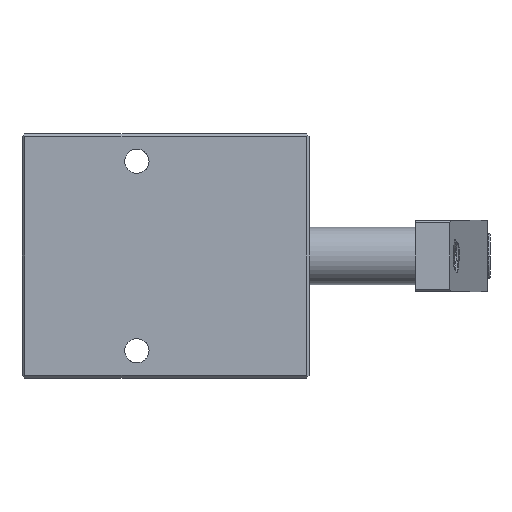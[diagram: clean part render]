
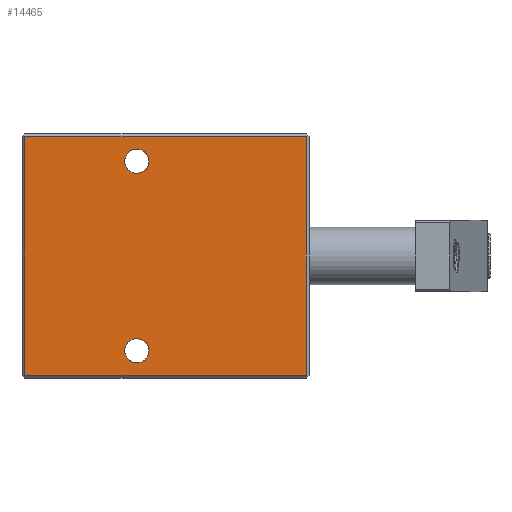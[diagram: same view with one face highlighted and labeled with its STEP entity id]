
A CAD part, front view. The second image highlights one B-rep face of the part: STEP entity #14465.
In plain terms, the highlighted planar face has unit normal (0, -1, 0).
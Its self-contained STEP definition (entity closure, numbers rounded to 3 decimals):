
#455=DIRECTION('',(0.,0.,-1.));
#456=VECTOR('',#455,83.);
#457=CARTESIAN_POINT('',(99.,-30.,41.5));
#458=LINE('',#457,#456);
#459=DIRECTION('',(-1.,0.,0.));
#460=VECTOR('',#459,98.);
#461=CARTESIAN_POINT('',(99.,-30.,-41.5));
#462=LINE('',#461,#460);
#463=DIRECTION('',(0.,0.,1.));
#464=VECTOR('',#463,83.);
#465=CARTESIAN_POINT('',(1.,-30.,-41.5));
#466=LINE('',#465,#464);
#467=DIRECTION('',(-1.,0.,0.));
#468=VECTOR('',#467,98.);
#469=CARTESIAN_POINT('',(99.,-30.,41.5));
#470=LINE('',#469,#468);
#471=CARTESIAN_POINT('',(40.,-30.,-33.));
#472=DIRECTION('',(0.,1.,0.));
#473=DIRECTION('',(0.,0.,1.));
#474=AXIS2_PLACEMENT_3D('',#471,#472,#473);
#476=CARTESIAN_POINT('',(40.,-30.,-33.));
#477=DIRECTION('',(0.,1.,0.));
#478=DIRECTION('',(0.,0.,-1.));
#479=AXIS2_PLACEMENT_3D('',#476,#477,#478);
#481=CARTESIAN_POINT('',(40.,-30.,33.));
#482=DIRECTION('',(0.,1.,0.));
#483=DIRECTION('',(0.,0.,1.));
#484=AXIS2_PLACEMENT_3D('',#481,#482,#483);
#486=CARTESIAN_POINT('',(40.,-30.,33.));
#487=DIRECTION('',(0.,1.,0.));
#488=DIRECTION('',(0.,0.,-1.));
#489=AXIS2_PLACEMENT_3D('',#486,#487,#488);
#13198=CARTESIAN_POINT('',(99.,-30.,41.5));
#13199=CARTESIAN_POINT('',(1.,-30.,41.5));
#13200=VERTEX_POINT('',#13198);
#13201=VERTEX_POINT('',#13199);
#13206=CARTESIAN_POINT('',(99.,-30.,-41.5));
#13207=CARTESIAN_POINT('',(1.,-30.,-41.5));
#13208=VERTEX_POINT('',#13206);
#13209=VERTEX_POINT('',#13207);
#13342=CARTESIAN_POINT('',(40.,-30.,-28.75));
#13343=CARTESIAN_POINT('',(40.,-30.,-37.25));
#13344=VERTEX_POINT('',#13342);
#13345=VERTEX_POINT('',#13343);
#13346=CARTESIAN_POINT('',(40.,-30.,37.25));
#13347=CARTESIAN_POINT('',(40.,-30.,28.75));
#13348=VERTEX_POINT('',#13346);
#13349=VERTEX_POINT('',#13347);
#14440=CARTESIAN_POINT('',(0.,-30.,42.5));
#14441=DIRECTION('',(0.,-1.,0.));
#14442=DIRECTION('',(0.,0.,-1.));
#14443=AXIS2_PLACEMENT_3D('',#14440,#14441,#14442);
#14444=PLANE('',#14443);
#14446=ORIENTED_EDGE('',*,*,#14445,.T.);
#14447=ORIENTED_EDGE('',*,*,#14414,.T.);
#14448=ORIENTED_EDGE('',*,*,#14428,.T.);
#14450=ORIENTED_EDGE('',*,*,#14449,.F.);
#14451=EDGE_LOOP('',(#14446,#14447,#14448,#14450));
#14452=FACE_OUTER_BOUND('',#14451,.F.);
#14454=ORIENTED_EDGE('',*,*,#14453,.F.);
#14456=ORIENTED_EDGE('',*,*,#14455,.F.);
#14457=EDGE_LOOP('',(#14454,#14456));
#14458=FACE_BOUND('',#14457,.F.);
#14460=ORIENTED_EDGE('',*,*,#14459,.F.);
#14462=ORIENTED_EDGE('',*,*,#14461,.F.);
#14463=EDGE_LOOP('',(#14460,#14462));
#14464=FACE_BOUND('',#14463,.F.);
#14465=ADVANCED_FACE('',(#14452,#14458,#14464),#14444,.T.);
#475=CIRCLE('',#474,4.25);
#480=CIRCLE('',#479,4.25);
#485=CIRCLE('',#484,4.25);
#490=CIRCLE('',#489,4.25);
#14414=EDGE_CURVE('',#13208,#13209,#462,.T.);
#14428=EDGE_CURVE('',#13209,#13201,#466,.T.);
#14445=EDGE_CURVE('',#13200,#13208,#458,.T.);
#14449=EDGE_CURVE('',#13200,#13201,#470,.T.);
#14453=EDGE_CURVE('',#13344,#13345,#475,.T.);
#14455=EDGE_CURVE('',#13345,#13344,#480,.T.);
#14459=EDGE_CURVE('',#13348,#13349,#485,.T.);
#14461=EDGE_CURVE('',#13349,#13348,#490,.T.);
